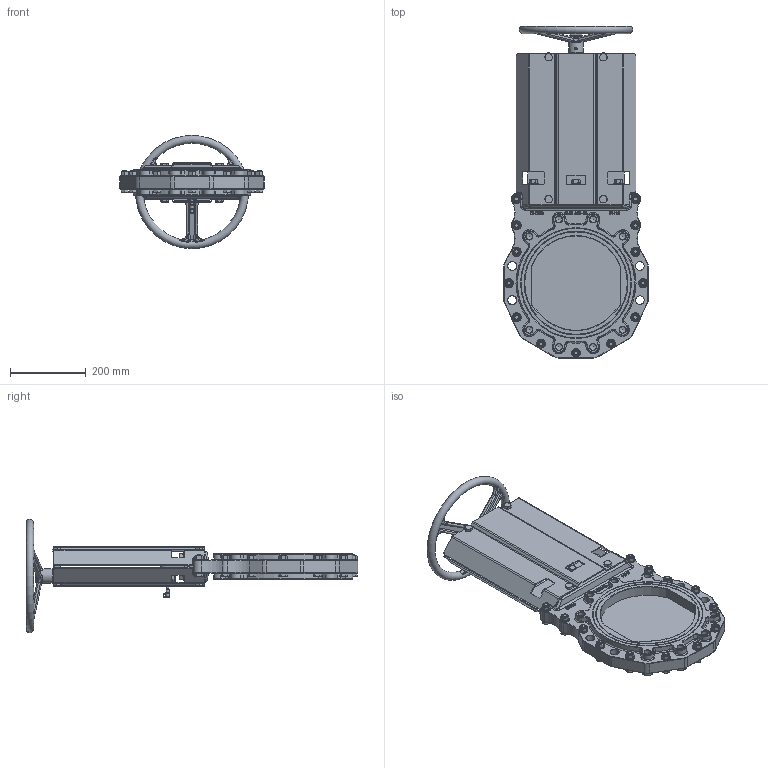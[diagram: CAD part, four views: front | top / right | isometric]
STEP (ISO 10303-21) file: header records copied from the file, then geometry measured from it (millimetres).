
FILE_DESCRIPTION(/* description */ (''),/* implementation_level */ '2;1');
FILE_NAME(/* name */ 'Non-rising stem knife gate valve with handwheel DN250-10.stp',/* time_stamp */ '2025-04-02T09:36:12+08:00',/* author */ (''),/* organization */ (''),/* preprocessor_version */ 'ST-DEVELOPER v15',/* originating_system */ 'SIEMENS PLM Software NX 10.0',/* authorisation */ '');
FILE_SCHEMA (('AP203_CONFIGURATION_CONTROLLED_3D_DESIGN_OF_MECHANICAL_PARTS_AND_ASSEMBLIES_MIM_LF { 1 0 10303 403 2 1 2}'));
Products named in the file (1): Admi271CEB492eym
Bounding box: 382.07 x 879.28 x 299.96 mm (x, y, z)
Volume: 7617538.4 mm3; surface area: 1327765.5 mm2
Topology: 1 solids, 29 shells, 3211 faces, 7771 edges, 4800 vertices
Faces by surface type: plane 1249, cylinder 722, bspline 433, cone 292, torus 247, extrusion 224, sphere 44
Full cylindrical faces by diameter (mm): 6 x3, 8 x1, 9 x1, 9.188 x2, 10.106 x6, 10.5 x2, 11.053 x13, 11.5 x1, 12 x32, 13 x32, 15.4 x2, 17.2 x21, 17.294 x16, 20 x4, 22.5 x1, 23 x8, 24 x32, 28 x1, 35 x3, 38 x1
Entity records: 99378 total; most frequent: CARTESIAN_POINT 30027, ORIENTED_EDGE 14594, DIRECTION 12735, EDGE_CURVE 7297, VERTEX_POINT 4719, AXIS2_PLACEMENT_3D 4685, EDGE_LOOP 3874, VECTOR 3365
